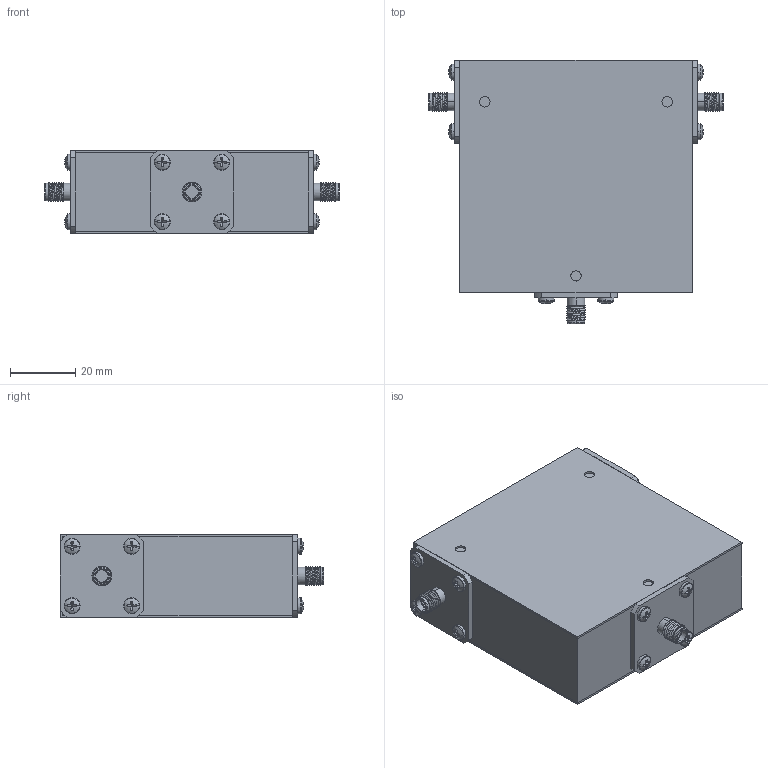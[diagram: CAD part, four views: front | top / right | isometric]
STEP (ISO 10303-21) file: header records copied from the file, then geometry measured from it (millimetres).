
FILE_DESCRIPTION (( 'STEP AP214' ), '1' );
FILE_NAME ('Package 20 Circ FFF.step', '2021-12-01T20:59:39', ( '' ), ( '' ), 'SwSTEP 2.0', 'SolidWorks 2016', '' );
FILE_SCHEMA (( 'AUTOMOTIVE_DESIGN' ));
Length unit declared in the file: inch
Products named in the file (5): Package 20; pan cross head_ai_CR-PHMS 0.099-56x0.125x0.125-N; Delta SMA-Female 1 inch flange threaded; Package Size 20; Package 20 Circ FFF
Assembly tree (17 placements, depth 2):
  Package 20 Circ FFF
    Package Size 20
    Package 20
    Delta SMA-Female 1 inch flange threaded  x3
    pan cross head_ai_CR-PHMS 0.099-56x0.125x0.125-N  x12
Bounding box: 90.17 x 80.64 x 25.4 mm (x, y, z)
Volume: 132166.7 mm3; surface area: 46975.7 mm2
Topology: 17 solids, 17 shells, 421 faces, 957 edges, 591 vertices
Faces by surface type: plane 232, cylinder 126, torus 30, sphere 24, bspline 9
Entity records: 3729 total; most frequent: CARTESIAN_POINT 1205, DIRECTION 527, ORIENTED_EDGE 434, EDGE_CURVE 217, AXIS2_PLACEMENT_3D 211, VERTEX_POINT 139, EDGE_LOOP 116, LINE 105
